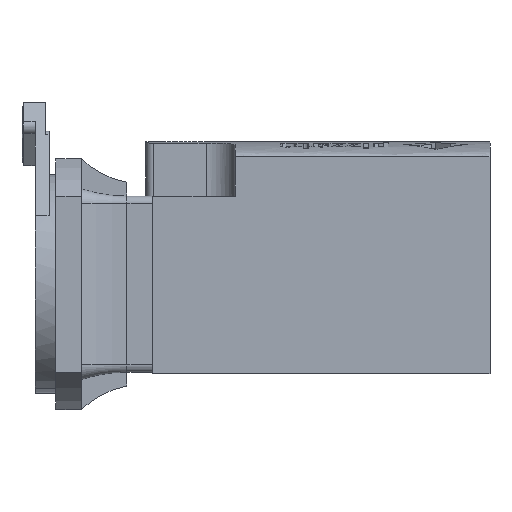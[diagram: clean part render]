
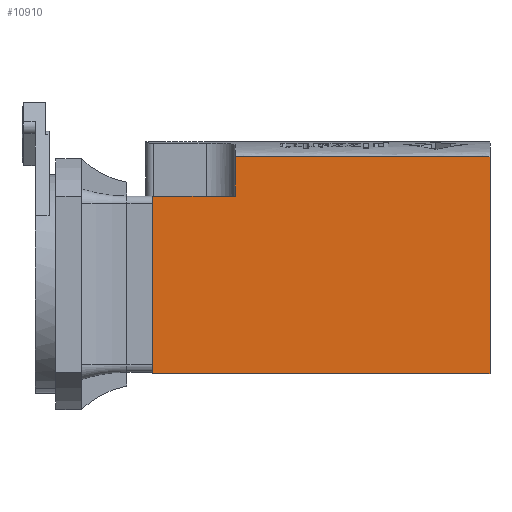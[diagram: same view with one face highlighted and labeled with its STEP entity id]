
A CAD part, left-side view. The second image highlights one B-rep face of the part: STEP entity #10910.
In plain terms, the highlighted planar face has unit normal (-1, 0, 0).
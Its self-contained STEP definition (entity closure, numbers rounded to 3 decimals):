
#398 = VECTOR ( 'NONE', #9672, 1000. ) ;
#1229 = LINE ( 'NONE', #4237, #9097 ) ;
#1273 = CARTESIAN_POINT ( 'NONE',  ( -15.6, -24.75, -12.2 ) ) ;
#1537 = VERTEX_POINT ( 'NONE', #12476 ) ;
#1601 = CARTESIAN_POINT ( 'NONE',  ( -15.6, 21.25, 12. ) ) ;
#1620 = ORIENTED_EDGE ( 'NONE', *, *, #11844, .F. ) ;
#2354 = LINE ( 'NONE', #20676, #18044 ) ;
#2399 = LINE ( 'NONE', #15866, #15652 ) ;
#2418 = ORIENTED_EDGE ( 'NONE', *, *, #10993, .T. ) ;
#3097 = LINE ( 'NONE', #1601, #398 ) ;
#3104 = EDGE_CURVE ( 'NONE', #1537, #20507, #3566, .T. ) ;
#3141 = CARTESIAN_POINT ( 'NONE',  ( -15.6, 9.95, 12. ) ) ;
#3566 = LINE ( 'NONE', #3141, #4180 ) ;
#3752 = DIRECTION ( 'NONE',  ( 1., 0., 0. ) ) ;
#4180 = VECTOR ( 'NONE', #8109, 1000. ) ;
#4233 = DIRECTION ( 'NONE',  ( 0., 0., -1. ) ) ;
#4237 = CARTESIAN_POINT ( 'NONE',  ( -15.6, 21.25, 19.4 ) ) ;
#4967 = CARTESIAN_POINT ( 'NONE',  ( -15.6, -24.75, 17.4 ) ) ;
#5698 = DIRECTION ( 'NONE',  ( 0., -1., 0. ) ) ;
#5730 = CARTESIAN_POINT ( 'NONE',  ( -15.6, 21.25, -12.2 ) ) ;
#6248 = ORIENTED_EDGE ( 'NONE', *, *, #14338, .T. ) ;
#8109 = DIRECTION ( 'NONE',  ( 0., 0., 1. ) ) ;
#8196 = CARTESIAN_POINT ( 'NONE',  ( -15.6, -24.75, 17.4 ) ) ;
#8720 = CARTESIAN_POINT ( 'NONE',  ( -15.6, -24.75, 19.4 ) ) ;
#9097 = VECTOR ( 'NONE', #19324, 1000. ) ;
#9672 = DIRECTION ( 'NONE',  ( 0., -1., 0. ) ) ;
#10323 = DIRECTION ( 'NONE',  ( 0., 1., 0. ) ) ;
#10328 = EDGE_CURVE ( 'NONE', #12808, #13197, #1229, .T. ) ;
#10910 = ADVANCED_FACE ( 'NONE', ( #16589 ), #16798, .F. ) ;
#10993 = EDGE_CURVE ( 'NONE', #13197, #17482, #2354, .T. ) ;
#11844 = EDGE_CURVE ( 'NONE', #13316, #17482, #2399, .T. ) ;
#12292 = ORIENTED_EDGE ( 'NONE', *, *, #3104, .F. ) ;
#12476 = CARTESIAN_POINT ( 'NONE',  ( -15.6, 9.95, 12. ) ) ;
#12808 = VERTEX_POINT ( 'NONE', #18685 ) ;
#12885 = AXIS2_PLACEMENT_3D ( 'NONE', #8720, #3752, #10323 ) ;
#12932 = EDGE_LOOP ( 'NONE', ( #1620, #6248, #12292, #20539, #16546, #2418 ) ) ;
#12942 = CARTESIAN_POINT ( 'NONE',  ( -15.6, -13.183, 17.4 ) ) ;
#13197 = VERTEX_POINT ( 'NONE', #5730 ) ;
#13316 = VERTEX_POINT ( 'NONE', #8196 ) ;
#13482 = B_SPLINE_CURVE_WITH_KNOTS ( 'NONE', 3,
 ( #4967, #12942, #16283, #16492 ),
 .UNSPECIFIED., .F., .F.,
 ( 4, 4 ),
 ( 0., 1. ),
 .UNSPECIFIED. ) ;
#13687 = EDGE_CURVE ( 'NONE', #12808, #1537, #3097, .T. ) ;
#14338 = EDGE_CURVE ( 'NONE', #13316, #20507, #13482, .T. ) ;
#15652 = VECTOR ( 'NONE', #4233, 1000. ) ;
#15866 = CARTESIAN_POINT ( 'NONE',  ( -15.6, -24.75, 19.4 ) ) ;
#16283 = CARTESIAN_POINT ( 'NONE',  ( -15.6, -1.617, 17.4 ) ) ;
#16492 = CARTESIAN_POINT ( 'NONE',  ( -15.6, 9.95, 17.4 ) ) ;
#16546 = ORIENTED_EDGE ( 'NONE', *, *, #10328, .T. ) ;
#16589 = FACE_OUTER_BOUND ( 'NONE', #12932, .T. ) ;
#16798 = PLANE ( 'NONE',  #12885 ) ;
#17482 = VERTEX_POINT ( 'NONE', #1273 ) ;
#18044 = VECTOR ( 'NONE', #5698, 1000. ) ;
#18685 = CARTESIAN_POINT ( 'NONE',  ( -15.6, 21.25, 12. ) ) ;
#19324 = DIRECTION ( 'NONE',  ( 0., 0., -1. ) ) ;
#19675 = CARTESIAN_POINT ( 'NONE',  ( -15.6, 9.95, 17.4 ) ) ;
#20507 = VERTEX_POINT ( 'NONE', #19675 ) ;
#20539 = ORIENTED_EDGE ( 'NONE', *, *, #13687, .F. ) ;
#20676 = CARTESIAN_POINT ( 'NONE',  ( -15.6, -24.75, -12.2 ) ) ;
